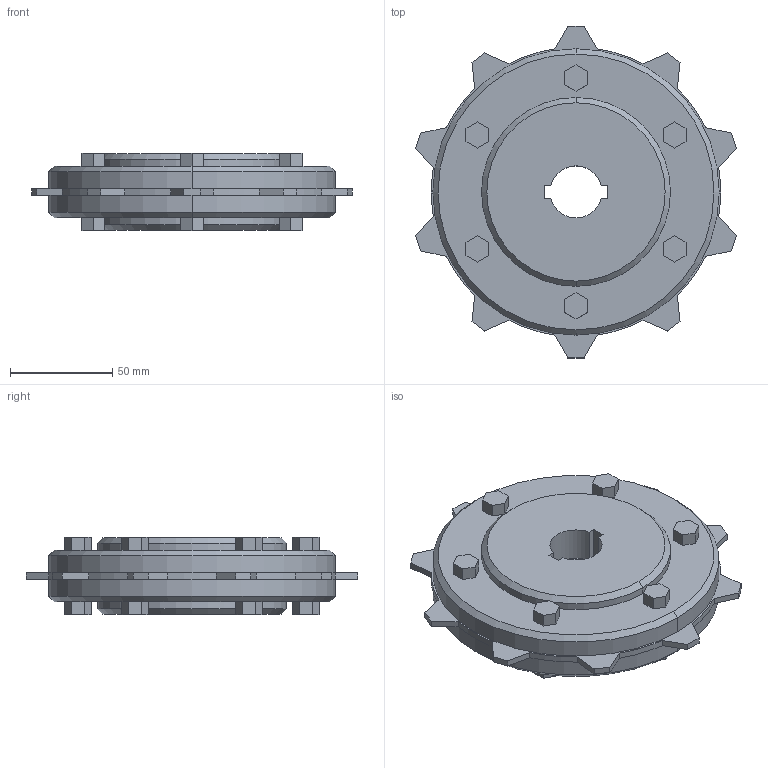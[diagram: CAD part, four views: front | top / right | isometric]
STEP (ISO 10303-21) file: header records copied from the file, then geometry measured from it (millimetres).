
FILE_DESCRIPTION((''),'2;1');
FILE_NAME('S400_SPL_METAL_64_ROUND_ASM','2008-12-12T',('jmumphre'),(''),'PRO/ENGINEER BY PARAMETRIC TECHNOLOGY CORPORATION, 2008150','PRO/ENGINEER BY PARAMETRIC TECHNOLOGY CORPORATION, 2008150','');
FILE_SCHEMA(('CONFIG_CONTROL_DESIGN'));
Length unit declared in the file: inch
Products named in the file (5): S400_TP_METAL_64X26_SQ_AF1; JOINING_PLATE_6_ROUND_AF0; JOINING_PLATE_6_ROUND_AF1; BOLTS_N_NUTS_4-376X0-980_AF0; S400_SPL_METAL_64_ROUND_ASM
Assembly tree (4 placements, depth 2):
  S400_SPL_METAL_64_ROUND_ASM
    S400_TP_METAL_64X26_SQ_AF1
    JOINING_PLATE_6_ROUND_AF0
    JOINING_PLATE_6_ROUND_AF1
    BOLTS_N_NUTS_4-376X0-980_AF0
Bounding box: 156.47 x 161.99 x 37.59 mm (x, y, z)
Volume: 439825.4 mm3; surface area: 111244 mm2
Topology: 9 solids, 9 shells, 228 faces, 580 edges, 384 vertices
Faces by surface type: plane 150, cylinder 70, cone 8
Entity records: 7081 total; most frequent: DIRECTION 1202, CARTESIAN_POINT 1201, ORIENTED_EDGE 1160, EDGE_CURVE 580, VECTOR 432, LINE 432, AXIS2_PLACEMENT_3D 385, VERTEX_POINT 384
